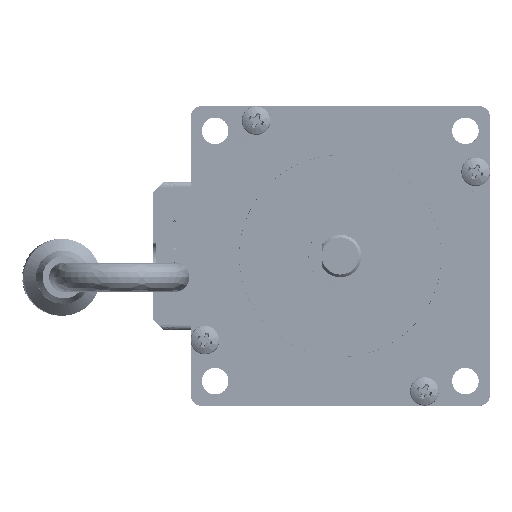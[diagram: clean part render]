
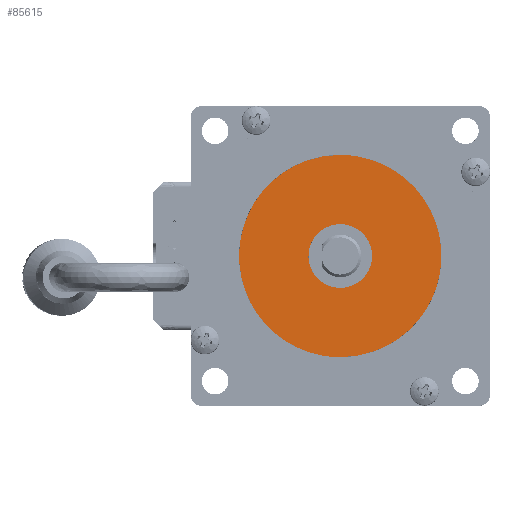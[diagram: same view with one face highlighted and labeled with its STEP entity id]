
A CAD part, left-side view. The second image highlights one B-rep face of the part: STEP entity #85615.
In plain terms, the highlighted free-form (B-spline) face has degree [1, 1] with [2, 2] control points.
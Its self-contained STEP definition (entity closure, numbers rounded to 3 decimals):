
#481 = CARTESIAN_POINT ( 'NONE',  ( -1.6, -6., 0. ) ) ;
#1043 = CARTESIAN_POINT ( 'NONE',  ( -1.6, 15.235, 11.706 ) ) ;
#2586 = CARTESIAN_POINT ( 'NONE',  ( -1.6, 18.555, 4.984 ) ) ;
#2831 = CARTESIAN_POINT ( 'NONE',  ( -1.6, -4.984, 18.555 ) ) ;
#8297 = ORIENTED_EDGE ( 'NONE', *, *, #17868, .T. ) ;
#12722 = CARTESIAN_POINT ( 'NONE',  ( -1.6, 0., 19.05 ) ) ;
#13488 = CARTESIAN_POINT ( 'NONE',  ( -1.6, 19.05, -2.496 ) ) ;
#14083 = VERTEX_POINT ( 'NONE', #150376 ) ;
#15621 = EDGE_LOOP ( 'NONE', ( #8297, #80916 ) ) ;
#17868 = EDGE_CURVE ( 'NONE', #89097, #46836, #65454, .T. ) ;
#21565 =( BOUNDED_CURVE ( )  B_SPLINE_CURVE ( 3, ( #58819, #106294, #85238, #481, #25359, #131163, #130404 ),
 .UNSPECIFIED., .F., .F. ) 
 B_SPLINE_CURVE_WITH_KNOTS ( ( 4, 3, 4 ),
 ( -3.142, -1.571, 0. ),
 .UNSPECIFIED. ) 
 CURVE ( )  GEOMETRIC_REPRESENTATION_ITEM ( )  RATIONAL_B_SPLINE_CURVE ( ( 1., 0.805, 0.805, 1., 0.805, 0.805, 1. ) ) 
 REPRESENTATION_ITEM ( '' )  );
#21958 = FACE_OUTER_BOUND ( 'NONE', #15621, .T. ) ;
#25165 = CARTESIAN_POINT ( 'NONE',  ( -1.6, 9.596, 16.645 ) ) ;
#25359 = CARTESIAN_POINT ( 'NONE',  ( -1.6, -6., 3.515 ) ) ;
#34342 = CARTESIAN_POINT ( 'NONE',  ( -1.6, 19.279, -19.279 ) ) ;
#37546 = CARTESIAN_POINT ( 'NONE',  ( -1.6, 19.05, 2.496 ) ) ;
#39225 = EDGE_CURVE ( 'NONE', #132288, #14083, #122838, .T. ) ;
#43740 = CARTESIAN_POINT ( 'NONE',  ( -1.6, -19.279, 19.279 ) ) ;
#46836 = VERTEX_POINT ( 'NONE', #139461 ) ;
#47707 = CARTESIAN_POINT ( 'NONE',  ( -1.6, 0., -19.05 ) ) ;
#49485 = CARTESIAN_POINT ( 'NONE',  ( -1.6, -19.05, -2.496 ) ) ;
#50261 = CARTESIAN_POINT ( 'NONE',  ( -1.6, -2.496, 19.05 ) ) ;
#51984 = CARTESIAN_POINT ( 'NONE',  ( -1.6, 0., 19.05 ) ) ;
#52831 = CARTESIAN_POINT ( 'NONE',  ( -1.6, 0., -6. ) ) ;
#55976 = CARTESIAN_POINT ( 'NONE',  ( -1.6, 0., 6. ) ) ;
#58819 = CARTESIAN_POINT ( 'NONE',  ( -1.6, 0., -6. ) ) ;
#58872 = CARTESIAN_POINT ( 'NONE',  ( -1.6, 0., 19.05 ) ) ;
#59387 = CARTESIAN_POINT ( 'NONE',  ( -1.6, 18.555, -4.984 ) ) ;
#60904 = CARTESIAN_POINT ( 'NONE',  ( -1.6, 15.235, -11.706 ) ) ;
#61674 = CARTESIAN_POINT ( 'NONE',  ( -1.6, 9.596, -16.645 ) ) ;
#65454 = B_SPLINE_CURVE_WITH_KNOTS ( 'NONE', 3,
 ( #12722, #96696, #108382, #25165, #107627, #1043, #84269, #2586, #37546, #13488, #59387, #120871, #60904, #73360, #61674, #109161, #94421, #47707 ),
 .UNSPECIFIED., .F., .F.,
 ( 4, 2, 2, 2, 2, 2, 2, 2, 4 ),
 ( 0., 0.393, 0.785, 1.178, 1.571, 1.963, 2.356, 2.749, 3.142 ),
 .UNSPECIFIED. ) ;
#70147 = CARTESIAN_POINT ( 'NONE',  ( -1.6, -19.279, -19.279 ) ) ;
#70523 = EDGE_CURVE ( 'NONE', #14083, #132288, #21565, .T. ) ;
#70558 = CARTESIAN_POINT ( 'NONE',  ( -1.6, -11.706, -15.235 ) ) ;
#72066 = CARTESIAN_POINT ( 'NONE',  ( -1.6, -11.706, 15.235 ) ) ;
#72833 = CARTESIAN_POINT ( 'NONE',  ( -1.6, -15.235, -11.706 ) ) ;
#73360 = CARTESIAN_POINT ( 'NONE',  ( -1.6, 11.706, -15.235 ) ) ;
#77708 = CARTESIAN_POINT ( 'NONE',  ( -1.6, 12., 6. ) ) ;
#80916 = ORIENTED_EDGE ( 'NONE', *, *, #86859, .T. ) ;
#82273 = B_SPLINE_SURFACE_WITH_KNOTS ( 'NONE', 1, 1, ( 
 ( #34342, #70147 ),
 ( #117663, #43740 ) ),
 .UNSPECIFIED., .F., .F., .F.,
 ( 2, 2 ),
 ( 2, 2 ),
 ( 0., 1. ),
 ( 0., 1. ),
 .UNSPECIFIED. ) ;
#84269 = CARTESIAN_POINT ( 'NONE',  ( -1.6, 16.645, 9.596 ) ) ;
#84520 = CARTESIAN_POINT ( 'NONE',  ( -1.6, -9.596, -16.645 ) ) ;
#85238 = CARTESIAN_POINT ( 'NONE',  ( -1.6, -6., -3.515 ) ) ;
#85615 = ADVANCED_FACE ( 'NONE', ( #104436, #21958 ), #82273, .F. ) ;
#86859 = EDGE_CURVE ( 'NONE', #46836, #89097, #143497, .T. ) ;
#89097 = VERTEX_POINT ( 'NONE', #51984 ) ;
#90927 = CARTESIAN_POINT ( 'NONE',  ( -1.6, 12., -6. ) ) ;
#94421 = CARTESIAN_POINT ( 'NONE',  ( -1.6, 2.496, -19.05 ) ) ;
#95417 = CARTESIAN_POINT ( 'NONE',  ( -1.6, -2.496, -19.05 ) ) ;
#96166 = CARTESIAN_POINT ( 'NONE',  ( -1.6, 0., -19.05 ) ) ;
#96696 = CARTESIAN_POINT ( 'NONE',  ( -1.6, 2.496, 19.05 ) ) ;
#102598 = CARTESIAN_POINT ( 'NONE',  ( -1.6, 0., 6. ) ) ;
#104436 = FACE_BOUND ( 'NONE', #114854, .T. ) ;
#106294 = CARTESIAN_POINT ( 'NONE',  ( -1.6, -3.515, -6. ) ) ;
#107627 = CARTESIAN_POINT ( 'NONE',  ( -1.6, 11.706, 15.235 ) ) ;
#108382 = CARTESIAN_POINT ( 'NONE',  ( -1.6, 4.984, 18.555 ) ) ;
#108639 = CARTESIAN_POINT ( 'NONE',  ( -1.6, -4.984, -18.555 ) ) ;
#109161 = CARTESIAN_POINT ( 'NONE',  ( -1.6, 4.984, -18.555 ) ) ;
#109413 = CARTESIAN_POINT ( 'NONE',  ( -1.6, -18.555, 4.984 ) ) ;
#112411 = ORIENTED_EDGE ( 'NONE', *, *, #39225, .F. ) ;
#114854 = EDGE_LOOP ( 'NONE', ( #112411, #121115 ) ) ;
#117663 = CARTESIAN_POINT ( 'NONE',  ( -1.6, 19.279, 19.279 ) ) ;
#118075 = CARTESIAN_POINT ( 'NONE',  ( -1.6, -16.645, 9.596 ) ) ;
#119578 = CARTESIAN_POINT ( 'NONE',  ( -1.6, -9.596, 16.645 ) ) ;
#120350 = CARTESIAN_POINT ( 'NONE',  ( -1.6, -18.555, -4.984 ) ) ;
#120871 = CARTESIAN_POINT ( 'NONE',  ( -1.6, 16.645, -9.596 ) ) ;
#121115 = ORIENTED_EDGE ( 'NONE', *, *, #70523, .F. ) ;
#121122 = CARTESIAN_POINT ( 'NONE',  ( -1.6, -15.235, 11.706 ) ) ;
#122838 =( BOUNDED_CURVE ( )  B_SPLINE_CURVE ( 3, ( #102598, #77708, #90927, #52831 ),
 .UNSPECIFIED., .F., .F. ) 
 B_SPLINE_CURVE_WITH_KNOTS ( ( 4, 4 ),
 ( -3.142, 0. ),
 .UNSPECIFIED. ) 
 CURVE ( )  GEOMETRIC_REPRESENTATION_ITEM ( )  RATIONAL_B_SPLINE_CURVE ( ( 1., 0.333, 0.333, 1. ) ) 
 REPRESENTATION_ITEM ( '' )  );
#130404 = CARTESIAN_POINT ( 'NONE',  ( -1.6, 0., 6. ) ) ;
#131163 = CARTESIAN_POINT ( 'NONE',  ( -1.6, -3.515, 6. ) ) ;
#131217 = CARTESIAN_POINT ( 'NONE',  ( -1.6, -19.05, 2.496 ) ) ;
#131991 = CARTESIAN_POINT ( 'NONE',  ( -1.6, -16.645, -9.596 ) ) ;
#132288 = VERTEX_POINT ( 'NONE', #55976 ) ;
#139461 = CARTESIAN_POINT ( 'NONE',  ( -1.6, 0., -19.05 ) ) ;
#143497 = B_SPLINE_CURVE_WITH_KNOTS ( 'NONE', 3,
 ( #96166, #95417, #108639, #84520, #70558, #72833, #131991, #120350, #49485, #131217, #109413, #118075, #121122, #72066, #119578, #2831, #50261, #58872 ),
 .UNSPECIFIED., .F., .F.,
 ( 4, 2, 2, 2, 2, 2, 2, 2, 4 ),
 ( 0., 0.393, 0.785, 1.178, 1.571, 1.963, 2.356, 2.749, 3.142 ),
 .UNSPECIFIED. ) ;
#150376 = CARTESIAN_POINT ( 'NONE',  ( -1.6, 0., -6. ) ) ;
